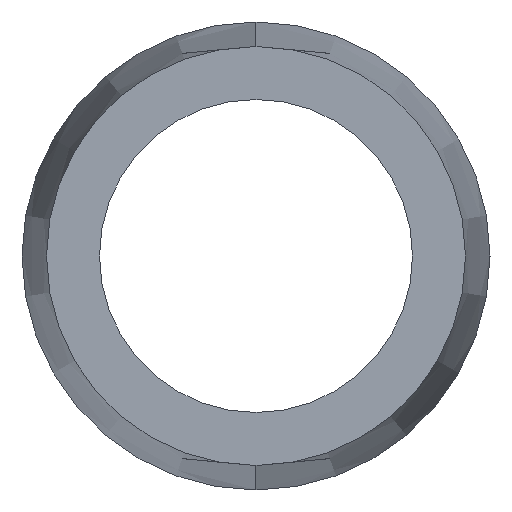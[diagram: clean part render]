
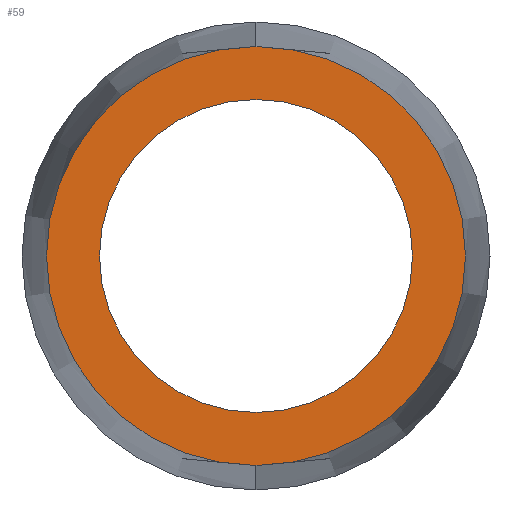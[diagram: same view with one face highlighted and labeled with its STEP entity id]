
A CAD part, left-side view. The second image highlights one B-rep face of the part: STEP entity #59.
In plain terms, the highlighted planar face has unit normal (-1, 0, 0).
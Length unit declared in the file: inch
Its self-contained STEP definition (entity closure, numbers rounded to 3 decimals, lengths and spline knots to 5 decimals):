
#2 = AXIS2_PLACEMENT_3D ( 'NONE', #282, #310, #64 ) ;
#3 = VERTEX_POINT ( 'NONE', #87 ) ;
#6 = CARTESIAN_POINT ( 'NONE',  ( 0., 0., 0. ) ) ;
#21 = DIRECTION ( 'NONE',  ( 0., 0., 1. ) ) ;
#22 = FACE_BOUND ( 'NONE', #253, .T. ) ;
#32 = DIRECTION ( 'NONE',  ( -1., 0., 0. ) ) ;
#40 = VERTEX_POINT ( 'NONE', #303 ) ;
#48 = EDGE_CURVE ( 'NONE', #40, #311, #219, .T. ) ;
#59 = ADVANCED_FACE ( 'NONE', ( #22, #109 ), #180, .F. ) ;
#62 = EDGE_CURVE ( 'NONE', #3, #127, #335, .T. ) ;
#64 = DIRECTION ( 'NONE',  ( 0., 0., 1. ) ) ;
#66 = CARTESIAN_POINT ( 'NONE',  ( 0., 0., -0.13987 ) ) ;
#69 = DIRECTION ( 'NONE',  ( -1., 0., 0. ) ) ;
#73 = AXIS2_PLACEMENT_3D ( 'NONE', #214, #69, #291 ) ;
#82 = ORIENTED_EDGE ( 'NONE', *, *, #62, .T. ) ;
#87 = CARTESIAN_POINT ( 'NONE',  ( 0., 0., 0.13987 ) ) ;
#90 = CARTESIAN_POINT ( 'NONE',  ( 0., 0.13987, 0. ) ) ;
#109 = FACE_OUTER_BOUND ( 'NONE', #319, .T. ) ;
#112 = AXIS2_PLACEMENT_3D ( 'NONE', #157, #320, #21 ) ;
#127 = VERTEX_POINT ( 'NONE', #66 ) ;
#143 = CARTESIAN_POINT ( 'NONE',  ( 0., 0., -0.1045 ) ) ;
#144 = AXIS2_PLACEMENT_3D ( 'NONE', #90, #336, #240 ) ;
#157 = CARTESIAN_POINT ( 'NONE',  ( 0., 0., 0. ) ) ;
#164 = EDGE_CURVE ( 'NONE', #127, #3, #300, .T. ) ;
#180 = PLANE ( 'NONE',  #144 ) ;
#183 = DIRECTION ( 'NONE',  ( 0., 0., 1. ) ) ;
#198 = ORIENTED_EDGE ( 'NONE', *, *, #199, .F. ) ;
#199 = EDGE_CURVE ( 'NONE', #311, #40, #277, .T. ) ;
#208 = ORIENTED_EDGE ( 'NONE', *, *, #48, .F. ) ;
#214 = CARTESIAN_POINT ( 'NONE',  ( 0., 0., 0. ) ) ;
#219 = CIRCLE ( 'NONE', #2, 0.1045 ) ;
#222 = AXIS2_PLACEMENT_3D ( 'NONE', #6, #32, #183 ) ;
#240 = DIRECTION ( 'NONE',  ( 0., 0., -1. ) ) ;
#253 = EDGE_LOOP ( 'NONE', ( #208, #198 ) ) ;
#265 = ORIENTED_EDGE ( 'NONE', *, *, #164, .T. ) ;
#277 = CIRCLE ( 'NONE', #112, 0.1045 ) ;
#282 = CARTESIAN_POINT ( 'NONE',  ( 0., 0., 0. ) ) ;
#291 = DIRECTION ( 'NONE',  ( 0., 0., 1. ) ) ;
#300 = CIRCLE ( 'NONE', #73, 0.13987 ) ;
#303 = CARTESIAN_POINT ( 'NONE',  ( 0., 0., 0.1045 ) ) ;
#310 = DIRECTION ( 'NONE',  ( -1., 0., 0. ) ) ;
#311 = VERTEX_POINT ( 'NONE', #143 ) ;
#319 = EDGE_LOOP ( 'NONE', ( #265, #82 ) ) ;
#320 = DIRECTION ( 'NONE',  ( -1., 0., 0. ) ) ;
#335 = CIRCLE ( 'NONE', #222, 0.13987 ) ;
#336 = DIRECTION ( 'NONE',  ( 1., 0., 0. ) ) ;
